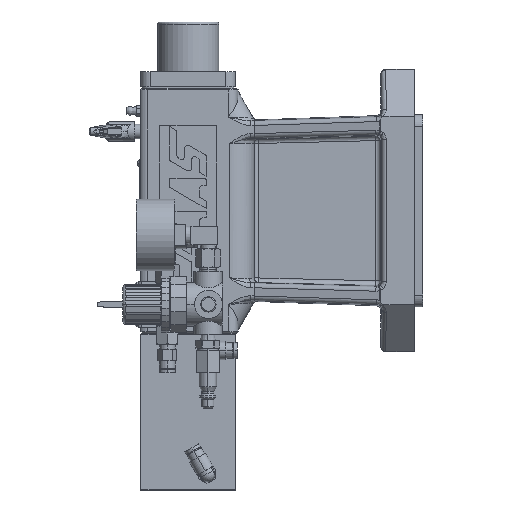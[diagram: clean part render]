
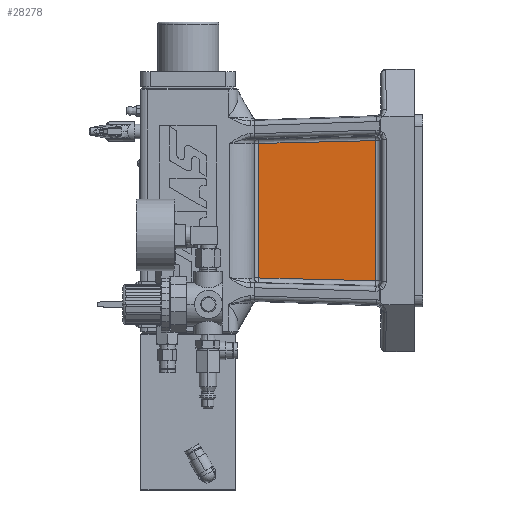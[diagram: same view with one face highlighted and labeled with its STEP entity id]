
A CAD part, left-side view. The second image highlights one B-rep face of the part: STEP entity #28278.
In plain terms, the highlighted planar face has unit normal (-1, 0, 0).
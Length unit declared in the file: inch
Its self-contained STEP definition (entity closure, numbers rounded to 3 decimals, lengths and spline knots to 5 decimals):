
#406 = FACE_OUTER_BOUND ( 'NONE', #13561, .T. ) ;
#753 = CARTESIAN_POINT ( 'NONE',  ( -0.3, -1.87464, 1.78292 ) ) ;
#1551 = LINE ( 'NONE', #15389, #37970 ) ;
#2436 = AXIS2_PLACEMENT_3D ( 'NONE', #28291, #35795, #25337 ) ;
#3095 = CARTESIAN_POINT ( 'NONE',  ( -0.3, -5.10197, -1.86088 ) ) ;
#4666 = PLANE ( 'NONE',  #2436 ) ;
#6080 = VERTEX_POINT ( 'NONE', #14579 ) ;
#6226 = VECTOR ( 'NONE', #7123, 39.37008 ) ;
#6523 = ORIENTED_EDGE ( 'NONE', *, *, #26090, .T. ) ;
#7123 = DIRECTION ( 'NONE',  ( 0., 0., 1. ) ) ;
#7804 = CARTESIAN_POINT ( 'NONE',  ( -0.3, -4.97616, -1.98369 ) ) ;
#10317 = LINE ( 'NONE', #13492, #27289 ) ;
#12215 = CARTESIAN_POINT ( 'NONE',  ( -0.3, -4.97616, -1.85784 ) ) ;
#13492 = CARTESIAN_POINT ( 'NONE',  ( -0.3, -1.75476, 1.78002 ) ) ;
#13561 = EDGE_LOOP ( 'NONE', ( #20641, #38475, #6523, #19551 ) ) ;
#14098 = EDGE_CURVE ( 'Defeatured_1_61+Defeatured_1_89+Defeatured_1_84+Defeatured_1_90', #36613, #33258, #10317, .T. ) ;
#14579 = CARTESIAN_POINT ( 'NONE',  ( -0.3, -1.87464, -1.78292 ) ) ;
#15389 = CARTESIAN_POINT ( 'NONE',  ( -0.3, -1.87464, -1.90282 ) ) ;
#15774 = VERTEX_POINT ( 'NONE', #12215 ) ;
#19551 = ORIENTED_EDGE ( 'NONE', *, *, #43799, .T. ) ;
#20641 = ORIENTED_EDGE ( 'NONE', *, *, #14098, .T. ) ;
#23367 = EDGE_CURVE ( 'Defeatured_1_61+Defeatured_1_90+Defeatured_1_89+Defeatured_1_85', #33258, #6080, #1551, .T. ) ;
#25337 = DIRECTION ( 'NONE',  ( 0., 0., 1. ) ) ;
#26090 = EDGE_CURVE ( 'Defeatured_1_61+Defeatured_1_85+Defeatured_1_90+Defeatured_1_84', #6080, #15774, #31061, .T. ) ;
#27289 = VECTOR ( 'NONE', #27351, 39.37008 ) ;
#27351 = DIRECTION ( 'NONE',  ( 0., 1., -0.024 ) ) ;
#28278 = ADVANCED_FACE ( 'Defeatured_1_61', ( #406 ), #4666, .F. ) ;
#28291 = CARTESIAN_POINT ( 'NONE',  ( -0.3, -5.099, -1.98369 ) ) ;
#31061 = LINE ( 'NONE', #3095, #31624 ) ;
#31624 = VECTOR ( 'NONE', #37882, 39.37008 ) ;
#33258 = VERTEX_POINT ( 'NONE', #753 ) ;
#35795 = DIRECTION ( 'NONE',  ( 1., 0., 0. ) ) ;
#36613 = VERTEX_POINT ( 'NONE', #44018 ) ;
#37882 = DIRECTION ( 'NONE',  ( 0., -1., -0.024 ) ) ;
#37970 = VECTOR ( 'NONE', #43143, 39.37008 ) ;
#38475 = ORIENTED_EDGE ( 'NONE', *, *, #23367, .T. ) ;
#38731 = LINE ( 'NONE', #7804, #6226 ) ;
#43143 = DIRECTION ( 'NONE',  ( 0., 0., -1. ) ) ;
#43799 = EDGE_CURVE ( 'Defeatured_1_61+Defeatured_1_84+Defeatured_1_85+Defeatured_1_89', #15774, #36613, #38731, .T. ) ;
#44018 = CARTESIAN_POINT ( 'NONE',  ( -0.3, -4.97616, 1.85784 ) ) ;
